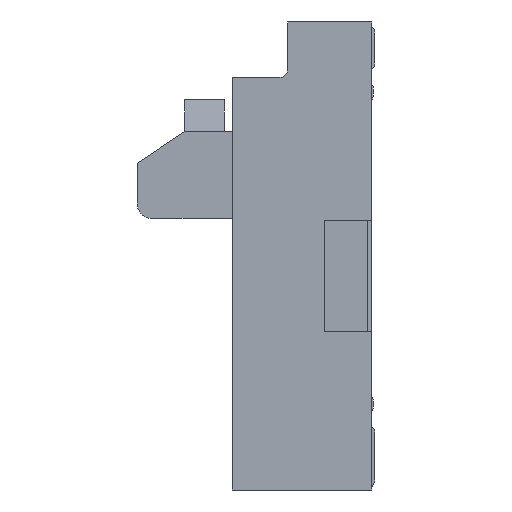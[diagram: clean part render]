
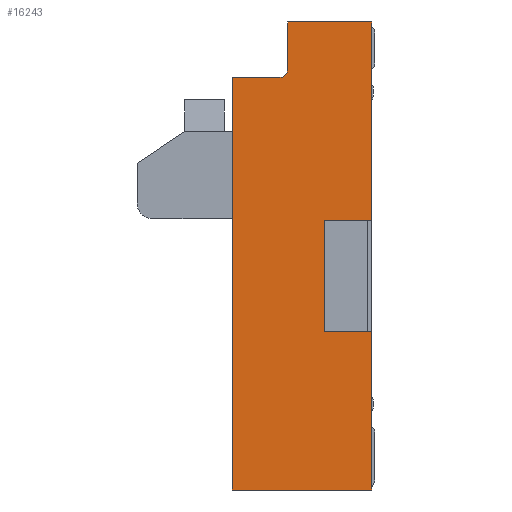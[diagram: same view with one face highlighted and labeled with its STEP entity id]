
A CAD part, left-side view. The second image highlights one B-rep face of the part: STEP entity #16243.
In plain terms, the highlighted planar face has unit normal (-1, 0, 0).
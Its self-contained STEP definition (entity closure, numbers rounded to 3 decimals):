
#104 = EDGE_CURVE ( 'NONE', #4988, #33064, #1441, .T. ) ;
#725 = EDGE_CURVE ( 'NONE', #23689, #24283, #16601, .T. ) ;
#861 = ORIENTED_EDGE ( 'NONE', *, *, #5408, .F. ) ;
#1152 = VERTEX_POINT ( 'NONE', #5963 ) ;
#1218 = DIRECTION ( 'NONE',  ( 0., 0., 1. ) ) ;
#1441 = LINE ( 'NONE', #11520, #8901 ) ;
#2089 = ORIENTED_EDGE ( 'NONE', *, *, #27273, .F. ) ;
#2198 = EDGE_CURVE ( 'NONE', #1152, #24283, #10026, .T. ) ;
#2395 = ORIENTED_EDGE ( 'NONE', *, *, #104, .F. ) ;
#3024 = LINE ( 'NONE', #16219, #24239 ) ;
#3228 = LINE ( 'NONE', #8755, #17377 ) ;
#4636 = ORIENTED_EDGE ( 'NONE', *, *, #24277, .T. ) ;
#4775 = LINE ( 'NONE', #9982, #13303 ) ;
#4988 = VERTEX_POINT ( 'NONE', #22833 ) ;
#5408 = EDGE_CURVE ( 'NONE', #20337, #23689, #21383, .T. ) ;
#5613 = DIRECTION ( 'NONE',  ( -1., 0., 0. ) ) ;
#5963 = CARTESIAN_POINT ( 'NONE',  ( -3.9, 0.32, -1.25 ) ) ;
#8204 = PLANE ( 'NONE',  #20746 ) ;
#8242 = DIRECTION ( 'NONE',  ( 0., 1., 0. ) ) ;
#8594 = VECTOR ( 'NONE', #13755, 1000. ) ;
#8620 = ORIENTED_EDGE ( 'NONE', *, *, #28759, .F. ) ;
#8755 = CARTESIAN_POINT ( 'NONE',  ( -3.9, 0.9, -0.35 ) ) ;
#8901 = VECTOR ( 'NONE', #12028, 1000. ) ;
#9512 = EDGE_CURVE ( 'NONE', #22984, #1152, #3024, .T. ) ;
#9873 = ORIENTED_EDGE ( 'NONE', *, *, #725, .F. ) ;
#9917 = DIRECTION ( 'NONE',  ( 0., 1., 0. ) ) ;
#9982 = CARTESIAN_POINT ( 'NONE',  ( -3.9, 0.02, -1.95 ) ) ;
#10026 = LINE ( 'NONE', #20619, #27262 ) ;
#11001 = FACE_OUTER_BOUND ( 'NONE', #28494, .T. ) ;
#11211 = VERTEX_POINT ( 'NONE', #17387 ) ;
#11471 = CARTESIAN_POINT ( 'NONE',  ( -3.9, 0.55, 0. ) ) ;
#11509 = DIRECTION ( 'NONE',  ( 0., 0., 1. ) ) ;
#11515 = VECTOR ( 'NONE', #26849, 1000. ) ;
#11520 = CARTESIAN_POINT ( 'NONE',  ( -3.9, 0.02, -2.85 ) ) ;
#12028 = DIRECTION ( 'NONE',  ( 0., 0., -1. ) ) ;
#12657 = EDGE_CURVE ( 'NONE', #33064, #13426, #12888, .T. ) ;
#12832 = CARTESIAN_POINT ( 'NONE',  ( -3.9, 0.02, -2.95 ) ) ;
#12875 = VECTOR ( 'NONE', #1218, 1000. ) ;
#12888 = LINE ( 'NONE', #25698, #33335 ) ;
#13261 = AXIS2_PLACEMENT_3D ( 'NONE', #19655, #14123, #24852 ) ;
#13303 = VECTOR ( 'NONE', #31645, 1000. ) ;
#13426 = VERTEX_POINT ( 'NONE', #33925 ) ;
#13755 = DIRECTION ( 'NONE',  ( 0., -1., 0. ) ) ;
#14123 = DIRECTION ( 'NONE',  ( -1., 0., 0. ) ) ;
#15855 = EDGE_CURVE ( 'NONE', #23549, #24620, #3228, .T. ) ;
#16219 = CARTESIAN_POINT ( 'NONE',  ( -3.9, 0.32, -1.25 ) ) ;
#16243 = ADVANCED_FACE ( 'NONE', ( #11001 ), #8204, .T. ) ;
#16601 = LINE ( 'NONE', #26989, #16695 ) ;
#16695 = VECTOR ( 'NONE', #24067, 1000. ) ;
#17377 = VECTOR ( 'NONE', #8242, 1000. ) ;
#17387 = CARTESIAN_POINT ( 'NONE',  ( -3.9, 0.55, -0.3 ) ) ;
#18668 = CARTESIAN_POINT ( 'NONE',  ( -3.9, 0.02, 0. ) ) ;
#18696 = ORIENTED_EDGE ( 'NONE', *, *, #33292, .T. ) ;
#19655 = CARTESIAN_POINT ( 'NONE',  ( -3.9, 0.6, -0.3 ) ) ;
#19757 = CARTESIAN_POINT ( 'NONE',  ( -3.9, 0.6, -0.35 ) ) ;
#20337 = VERTEX_POINT ( 'NONE', #11471 ) ;
#20464 = ORIENTED_EDGE ( 'NONE', *, *, #2198, .T. ) ;
#20619 = CARTESIAN_POINT ( 'NONE',  ( -3.9, 0.02, -1.25 ) ) ;
#20746 = AXIS2_PLACEMENT_3D ( 'NONE', #29356, #5613, #24524 ) ;
#20957 = ORIENTED_EDGE ( 'NONE', *, *, #15855, .T. ) ;
#21383 = LINE ( 'NONE', #24664, #8594 ) ;
#22833 = CARTESIAN_POINT ( 'NONE',  ( -3.9, 0.02, -1.95 ) ) ;
#22984 = VERTEX_POINT ( 'NONE', #30387 ) ;
#23549 = VERTEX_POINT ( 'NONE', #19757 ) ;
#23689 = VERTEX_POINT ( 'NONE', #18668 ) ;
#24065 = ORIENTED_EDGE ( 'NONE', *, *, #12657, .F. ) ;
#24067 = DIRECTION ( 'NONE',  ( 0., 0., -1. ) ) ;
#24239 = VECTOR ( 'NONE', #11509, 1000. ) ;
#24277 = EDGE_CURVE ( 'NONE', #4988, #22984, #4775, .T. ) ;
#24283 = VERTEX_POINT ( 'NONE', #26462 ) ;
#24524 = DIRECTION ( 'NONE',  ( 0., 0., -1. ) ) ;
#24620 = VERTEX_POINT ( 'NONE', #28448 ) ;
#24664 = CARTESIAN_POINT ( 'NONE',  ( -3.9, 0.9, 0. ) ) ;
#24852 = DIRECTION ( 'NONE',  ( 0., 0., -1. ) ) ;
#25698 = CARTESIAN_POINT ( 'NONE',  ( -3.9, -0.564, -2.95 ) ) ;
#26462 = CARTESIAN_POINT ( 'NONE',  ( -3.9, 0.02, -1.25 ) ) ;
#26849 = DIRECTION ( 'NONE',  ( 0., 0., -1. ) ) ;
#26989 = CARTESIAN_POINT ( 'NONE',  ( -3.9, 0.02, -2.85 ) ) ;
#27182 = LINE ( 'NONE', #32031, #11515 ) ;
#27262 = VECTOR ( 'NONE', #31154, 1000. ) ;
#27273 = EDGE_CURVE ( 'NONE', #13426, #24620, #33083, .T. ) ;
#28448 = CARTESIAN_POINT ( 'NONE',  ( -3.9, 0.9, -0.35 ) ) ;
#28494 = EDGE_LOOP ( 'NONE', ( #20464, #9873, #861, #18696, #8620, #20957, #2089, #24065, #2395, #4636, #29096 ) ) ;
#28759 = EDGE_CURVE ( 'NONE', #23549, #11211, #29285, .T. ) ;
#29096 = ORIENTED_EDGE ( 'NONE', *, *, #9512, .T. ) ;
#29285 = CIRCLE ( 'NONE', #13261, 0.05 ) ;
#29356 = CARTESIAN_POINT ( 'NONE',  ( -3.9, 0., 0. ) ) ;
#29810 = CARTESIAN_POINT ( 'NONE',  ( -3.9, 0.9, 0. ) ) ;
#30387 = CARTESIAN_POINT ( 'NONE',  ( -3.9, 0.32, -1.95 ) ) ;
#31154 = DIRECTION ( 'NONE',  ( 0., -1., 0. ) ) ;
#31645 = DIRECTION ( 'NONE',  ( 0., 1., 0. ) ) ;
#32031 = CARTESIAN_POINT ( 'NONE',  ( -3.9, 0.55, 0. ) ) ;
#33064 = VERTEX_POINT ( 'NONE', #12832 ) ;
#33083 = LINE ( 'NONE', #29810, #12875 ) ;
#33292 = EDGE_CURVE ( 'NONE', #20337, #11211, #27182, .T. ) ;
#33335 = VECTOR ( 'NONE', #9917, 1000. ) ;
#33925 = CARTESIAN_POINT ( 'NONE',  ( -3.9, 0.9, -2.95 ) ) ;
